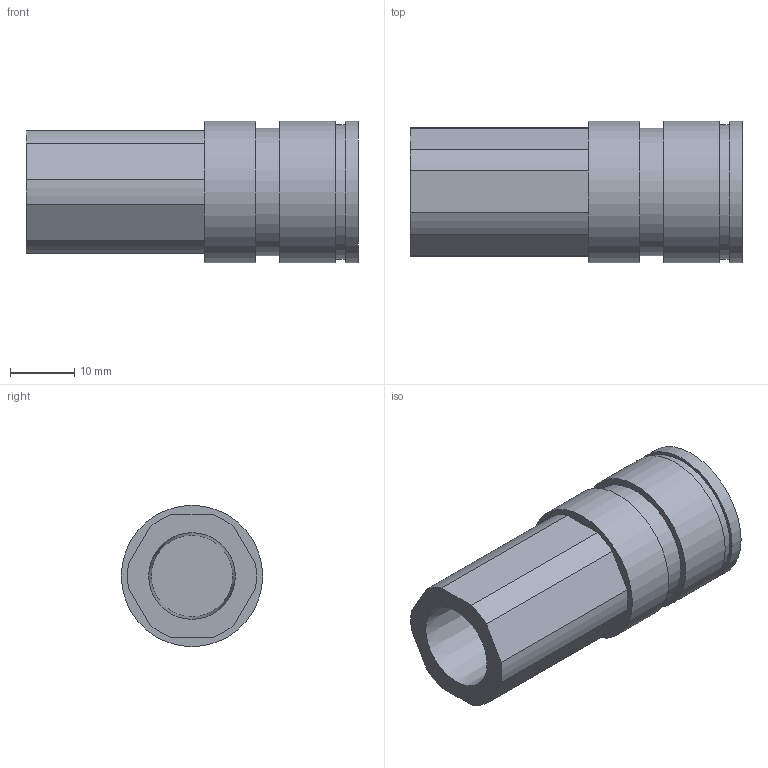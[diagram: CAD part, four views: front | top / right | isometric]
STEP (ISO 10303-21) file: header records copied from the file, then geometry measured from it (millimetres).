
FILE_DESCRIPTION((''),'2;1');
FILE_NAME('Z:\客先\あ行\アオイ\99_その他\3D_DATA\CPR_Series\2CPR-SSV-RC\STEP\203\CPR-SSV-RC1-4.ipt.stp','2008-07-01T11:29:17',(''),(''),'Autodesk Inventor 2009','Autodesk Inventor 2009','');
FILE_SCHEMA(('CONFIG_CONTROL_DESIGN'));
Length unit declared in the file: millimetre
Products named in the file (1): CPR-SSV-RC1-4
Bounding box: 51.7 x 22 x 22 mm (x, y, z)
Volume: 12467.2 mm3; surface area: 5679.8 mm2
Topology: 1 solids, 1 shells, 28 faces, 57 edges, 38 vertices
Faces by surface type: plane 15, cylinder 12, cone 1
Full cylindrical faces by diameter (mm): 14.25 x1, 19.8 x1, 21 x1, 22 x3
Entity records: 729 total; most frequent: DIRECTION 134, CARTESIAN_POINT 117, ORIENTED_EDGE 100, AXIS2_PLACEMENT_3D 55, EDGE_CURVE 50, EDGE_LOOP 42, VERTEX_POINT 38, FACE_OUTER_BOUND 28
